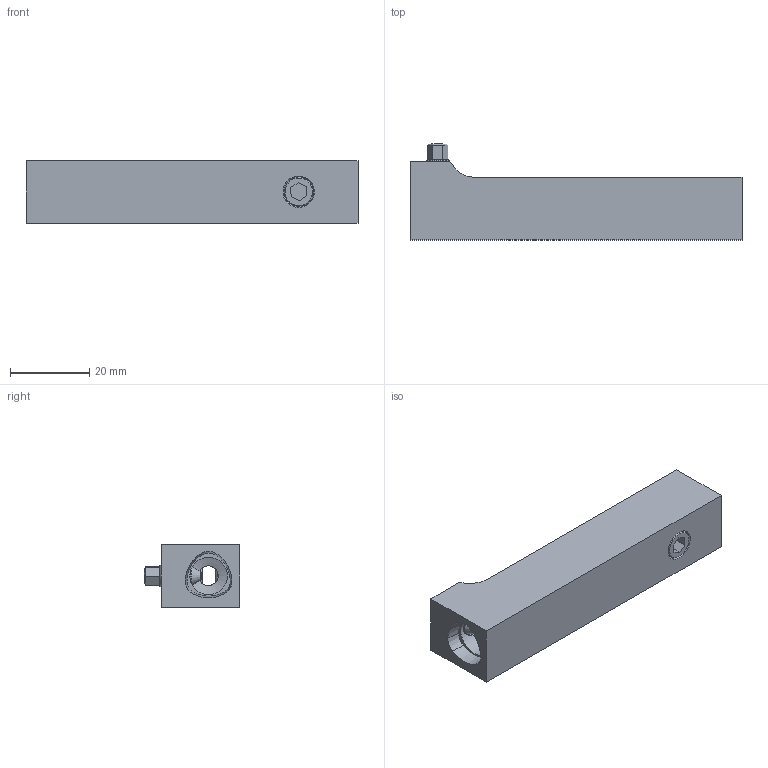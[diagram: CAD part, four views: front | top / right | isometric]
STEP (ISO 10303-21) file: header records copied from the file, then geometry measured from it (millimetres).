
FILE_DESCRIPTION(/* description */ (''),/* implementation_level */ '2;1');
FILE_NAME(/* name */ 'WEBDA_E00025096_00_Kunde.stp',/* time_stamp */ '2021-06-18T09:12:51+02:00',/* author */ (''),/* organization */ (''),/* preprocessor_version */ 'ST-DEVELOPER v16',/* originating_system */ 'SIEMENS PLM Software NX 11.0',/* authorisation */ '');
FILE_SCHEMA (('AUTOMOTIVE_DESIGN { 1 0 10303 214 3 1 1 1 }'));
Length unit declared in the file: millimetre
Products named in the file (1): ja.h66AC8482vt9g
Bounding box: 84 x 24.27 x 15.88 mm (x, y, z)
Volume: 19280.6 mm3; surface area: 7757.1 mm2
Topology: 1 solids, 1 shells, 78 faces, 195 edges, 126 vertices
Faces by surface type: plane 42, cone 20, cylinder 14, torus 2
Full cylindrical faces by diameter (mm): 4.9 x1, 5 x2, 5.25 x1, 6 x1, 6.909 x1, 9.5 x1
Entity records: 2406 total; most frequent: CARTESIAN_POINT 639, DIRECTION 354, ORIENTED_EDGE 330, EDGE_CURVE 165, AXIS2_PLACEMENT_3D 127, VERTEX_POINT 115, EDGE_LOOP 106, LINE 100
